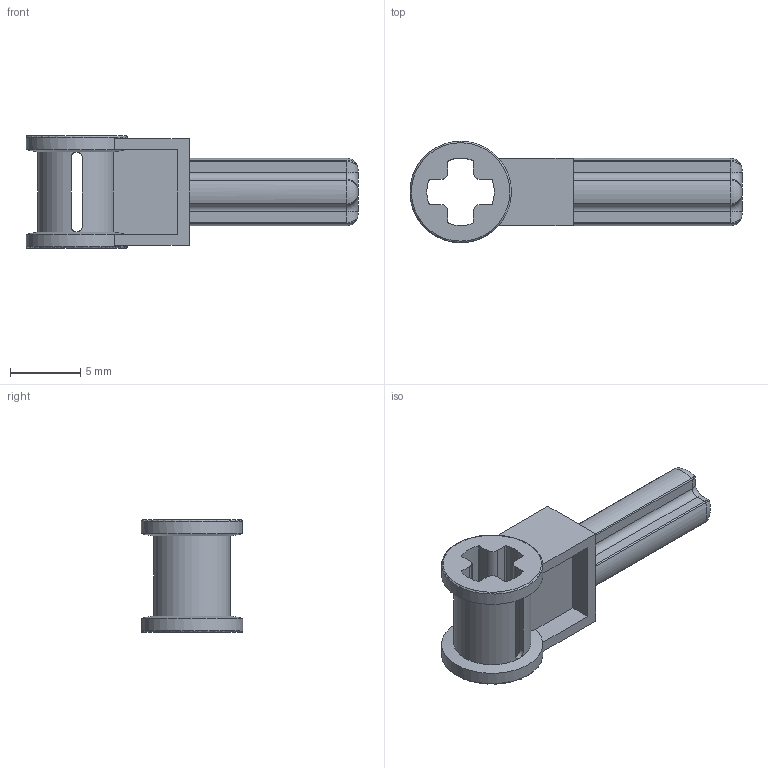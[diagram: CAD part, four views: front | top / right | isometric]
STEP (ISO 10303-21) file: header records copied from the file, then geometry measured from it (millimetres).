
FILE_DESCRIPTION(/* description */ ('Unknown'),/* implementation_level */ '2;1');
FILE_NAME(/* name */ 'ClGray_4211536_AVV',/* time_stamp */ '2025-07-21T23:50:37+02:00',/* author */ ('Unknown'),/* organization */ ('Unknown'),/* preprocessor_version */ 'ST-DEVELOPER v19.4',/* originating_system */ 'Solid Edge',/* authorisation */ 'Unknown');
FILE_SCHEMA (('AUTOMOTIVE_DESIGN {1 0 10303 214 3 1 1}'));
Length unit declared in the file: millimetre
Products named in the file (1): ClGray_4211536_AVV
Bounding box: 23.6 x 7.2 x 8 mm (x, y, z)
Volume: 383.8 mm3; surface area: 737.8 mm2
Topology: 1 solids, 1 shells, 106 faces, 282 edges, 168 vertices
Faces by surface type: cylinder 49, plane 37, torus 10, bspline 8, cone 2
Full cylindrical faces by diameter (mm): 7.2 x2
Entity records: 3342 total; most frequent: CARTESIAN_POINT 769, ORIENTED_EDGE 536, DIRECTION 534, EDGE_CURVE 268, AXIS2_PLACEMENT_3D 199, VERTEX_POINT 166, LINE 136, VECTOR 136
